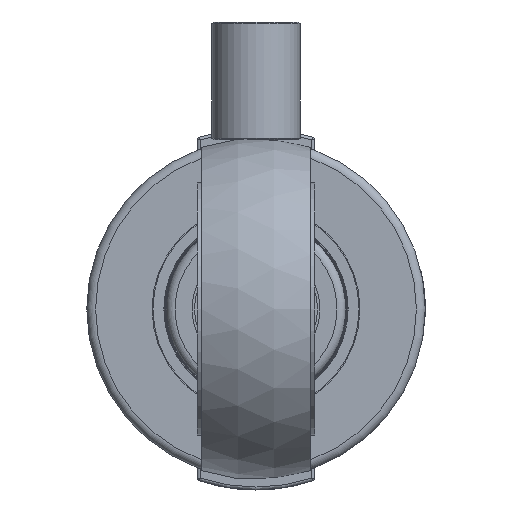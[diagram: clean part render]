
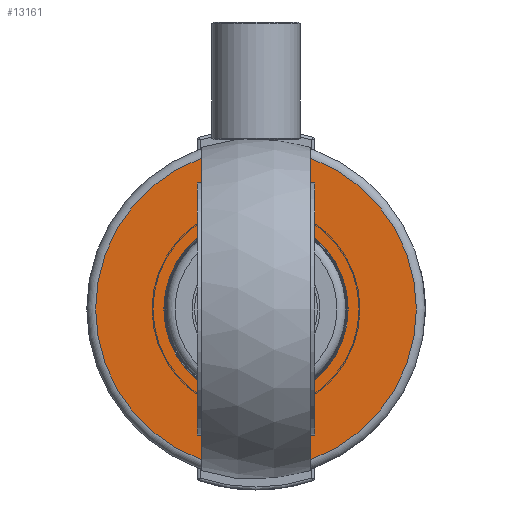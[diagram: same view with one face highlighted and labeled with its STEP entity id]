
A CAD part, front view. The second image highlights one B-rep face of the part: STEP entity #13161.
In plain terms, the highlighted planar face has unit normal (0, -1, 0) as drawn and (-1, 0, 0) by its records, which use the part's own axes.
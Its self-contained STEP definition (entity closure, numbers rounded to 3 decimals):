
#1397=FACE_BOUND('',#3169,.T.);
#1634=PLANE('',#13819);
#2356=FACE_OUTER_BOUND('',#3168,.T.);
#3168=EDGE_LOOP('',(#11933));
#3169=EDGE_LOOP('',(#11934));
#5170=CIRCLE('',#13818,54.5);
#5171=CIRCLE('',#13820,31.3);
#6467=VERTEX_POINT('',#33939);
#6468=VERTEX_POINT('',#33943);
#8311=EDGE_CURVE('',#6467,#6467,#5170,.T.);
#8312=EDGE_CURVE('',#6468,#6468,#5171,.T.);
#11933=ORIENTED_EDGE('',*,*,#8311,.F.);
#11934=ORIENTED_EDGE('',*,*,#8312,.T.);
#13161=ADVANCED_FACE('',(#2356,#1397),#1634,.T.);
#13818=AXIS2_PLACEMENT_3D('',#33941,#15709,#15710);
#13819=AXIS2_PLACEMENT_3D('',#33942,#15711,#15712);
#13820=AXIS2_PLACEMENT_3D('',#33944,#15713,#15714);
#15709=DIRECTION('center_axis',(1.,0.,0.));
#15710=DIRECTION('ref_axis',(0.,-1.,0.));
#15711=DIRECTION('center_axis',(-1.,0.,0.));
#15712=DIRECTION('ref_axis',(0.,0.,1.));
#15713=DIRECTION('center_axis',(1.,0.,0.));
#15714=DIRECTION('ref_axis',(0.,0.,-1.));
#33939=CARTESIAN_POINT('',(0.,0.,54.5));
#33941=CARTESIAN_POINT('Origin',(0.,0.,0.));
#33942=CARTESIAN_POINT('Origin',(0.,57.5,0.));
#33943=CARTESIAN_POINT('',(0.,-31.3,0.));
#33944=CARTESIAN_POINT('Origin',(0.,0.,0.));
